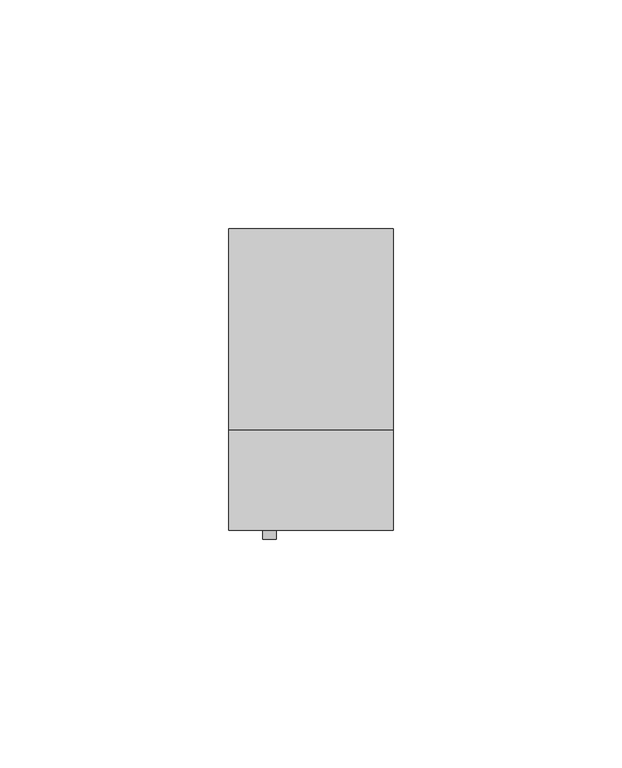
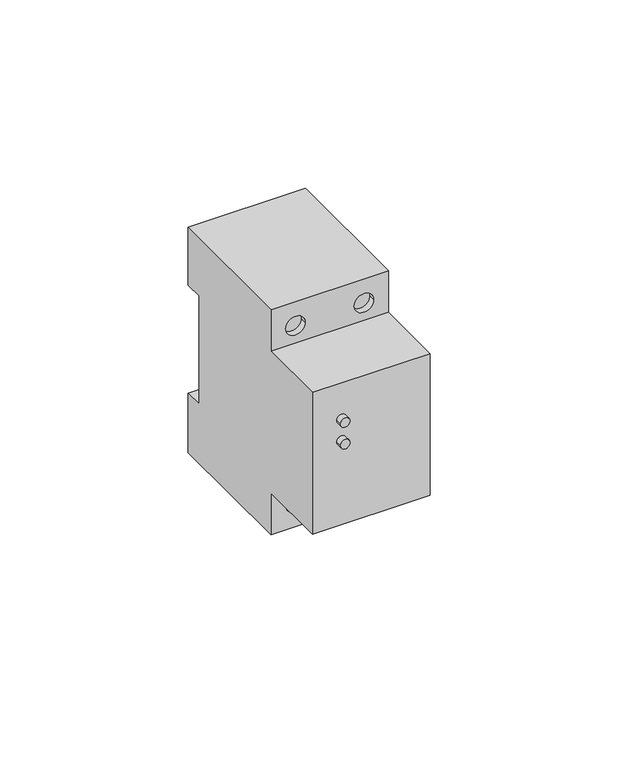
"""IFC4 building model written with IfcOpenShell, lengths in millimetres: proxy geometry, TDM_РЕЛЕ КОНТРОЛЯ НАПРЯЖЕНИЯ СЕРИИ АЗМ : 20А."""

from ifc_helpers import new_model, si_unit, point, frame, frame_2d, origin, place, context, project, spatial, polyline, circle_curve, trimmed, segment, composite_curve, outline, extrude, source, transform, mapped, element, save
from ifc_brep_helpers import plane_surface, revolved_surface, advanced_brep


def electrical_equipment_d9e2468f(model_context):
    return source(origin(), model_context, "Body", "SolidModel", [
        extrude(outline(composite_curve([segment(trimmed(circle_curve(frame_2d((4.2954963, -9.0625)), 1.5), [point((4.2954963, -10.5625))], [point((4.2954963, -7.5625))], False, "CARTESIAN"), True, "CONTINUOUS"), segment(trimmed(circle_curve(frame_2d((4.2954963, -9.0625)), 1.5), [point((4.2954963, -7.5625))], [point((4.2954963, -10.5625))], False, "CARTESIAN"), True, "CONTINUOUS")], self_intersect=False)), frame((0.0, -30.4514709, 0.0), z_axis=(0.0, 1.0, 0.0), x_axis=(0.0, 0.0, 1.0)), (0.0, 0.0, 1.0), 1.9514709),
        extrude(outline(composite_curve([segment(trimmed(circle_curve(frame_2d((11.2954963, -9.0625)), 1.5), [point((11.2954963, -10.5625))], [point((11.2954963, -7.5625))], False, "CARTESIAN"), True, "CONTINUOUS"), segment(trimmed(circle_curve(frame_2d((11.2954963, -9.0625)), 1.5), [point((11.2954963, -7.5625))], [point((11.2954963, -10.5625))], False, "CARTESIAN"), True, "CONTINUOUS")], self_intersect=False)), frame((0.0, -30.4514709, 0.0), z_axis=(0.0, 1.0, 0.0), x_axis=(0.0, 0.0, 1.0)), (0.0, 0.0, 1.0), 1.9514709),
        extrude(outline(polyline([(17.0, 16.6821204), (17.0, -4.0740757), (-17.0, -4.0740757), (-17.0, 16.6821204), (17.0, 16.6821204)])), frame((0.0, 0.0, -35.0), z_axis=(0.0, 0.0, 1.0), x_axis=(1.0, 0.0, 0.0)), (0.0, 0.0, 1.0), 69.8255916),
        advanced_brep(
        [(18.0, 31.7632568, 17.7057143), (18.0, 37.5, 17.7057143), (18.0, 37.5, 36.5), (18.0, -6.5, 36.5), (18.0, -6.5, 23.0), (18.0, -28.5, 23.0), (18.0, -28.5, -23.0), (18.0, -6.5, -23.0), (18.0, -6.5, -36.5), (18.0, 37.5, -36.5), (18.0, 37.5, -17.2942857), (18.0, 31.7632568, -17.2942857), (-18.0, 31.7632568, 17.7057143), (-18.0, 31.7632568, -17.2942857), (-18.0, 37.5, -17.2942857), (-18.0, 37.5, -36.5), (-18.0, -6.5, -36.5), (-18.0, -6.5, -23.0), (-18.0, -28.5, -23.0), (-18.0, -28.5, 23.0), (-18.0, -6.5, 23.0), (-18.0, -6.5, 36.5), (-18.0, 37.5, 36.5), (-18.0, 37.5, 17.7057143), (7.5, 7.7375398, 28.6903679), (13.5, 7.7375398, 28.6903679), (-7.5, 7.7375398, 28.6903679), (-13.5, 7.7375398, 28.6903679), (7.5, 7.7375398, -28.6903679), (13.5, 7.7375398, -28.6903679), (-7.5, 7.7375398, -28.6903679), (-13.5, 7.7375398, -28.6903679), (7.5, -6.5, 28.6903679), (13.5, -6.5, 28.6903679), (-13.5, -6.5, 28.6903679), (-7.5, -6.5, 28.6903679), (13.5, -6.5, -28.6903679), (7.5, -6.5, -28.6903679), (-13.5, -6.5, -28.6903679), (-7.5, -6.5, -28.6903679)],
        [
            (0, 1),
            (1, 2),
            (2, 3),
            (3, 4),
            (4, 5),
            (5, 6),
            (6, 7),
            (7, 8),
            (8, 9),
            (9, 10),
            (10, 11),
            (11, 0),
            (12, 13),
            (13, 14),
            (14, 15),
            (15, 16),
            (16, 17),
            (17, 18),
            (18, 19),
            (19, 20),
            (20, 21),
            (21, 22),
            (22, 23),
            (23, 12),
            (0, 12),
            (23, 1),
            (22, 2),
            (9, 15),
            (14, 10),
            (13, 11),
            (24, 25, circle_curve(frame((10.5, 7.7375398, 28.6903679), z_axis=(0.0, -1.0, 0.0), x_axis=(1.0, 0.0, 0.0)), 3.0)),
            (25, 24, circle_curve(frame((10.5, 7.7375398, 28.6903679), z_axis=(0.0, -1.0, 0.0), x_axis=(1.0, 0.0, 0.0)), 3.0)),
            (26, 27, circle_curve(frame((-10.5, 7.7375398, 28.6903679), z_axis=(0.0, -1.0, 0.0), x_axis=(-1.0, 0.0, 0.0)), 3.0)),
            (27, 26, circle_curve(frame((-10.5, 7.7375398, 28.6903679), z_axis=(0.0, -1.0, 0.0), x_axis=(-1.0, 0.0, 0.0)), 3.0)),
            (28, 29, circle_curve(frame((10.5, 7.7375398, -28.6903679), z_axis=(0.0, -1.0, 0.0), x_axis=(1.0, 0.0, 0.0)), 3.0)),
            (29, 28, circle_curve(frame((10.5, 7.7375398, -28.6903679), z_axis=(0.0, -1.0, 0.0), x_axis=(1.0, 0.0, 0.0)), 3.0)),
            (30, 31, circle_curve(frame((-10.5, 7.7375398, -28.6903679), z_axis=(0.0, -1.0, 0.0), x_axis=(-1.0, 0.0, 0.0)), 3.0)),
            (31, 30, circle_curve(frame((-10.5, 7.7375398, -28.6903679), z_axis=(0.0, -1.0, 0.0), x_axis=(-1.0, 0.0, 0.0)), 3.0)),
            (4, 20),
            (19, 5),
            (18, 6),
            (24, 32),
            (32, 33, circle_curve(frame((10.5, -6.5, 28.6903679), z_axis=(0.0, -1.0, 0.0), x_axis=(1.0, 0.0, 0.0)), 3.0)),
            (33, 25),
            (33, 32, circle_curve(frame((10.5, -6.5, 28.6903679), z_axis=(0.0, -1.0, 0.0), x_axis=(1.0, 0.0, 0.0)), 3.0)),
            (21, 3),
            (34, 35, circle_curve(frame((-10.5, -6.5, 28.6903679), z_axis=(0.0, 1.0, 0.0), x_axis=(-1.0, 0.0, 0.0)), 3.0)),
            (35, 34, circle_curve(frame((-10.5, -6.5, 28.6903679), z_axis=(0.0, 1.0, 0.0), x_axis=(-1.0, 0.0, 0.0)), 3.0)),
            (17, 7),
            (16, 8),
            (36, 37, circle_curve(frame((10.5, -6.5, -28.6903679), z_axis=(0.0, 1.0, 0.0), x_axis=(1.0, 0.0, 0.0)), 3.0)),
            (37, 36, circle_curve(frame((10.5, -6.5, -28.6903679), z_axis=(0.0, 1.0, 0.0), x_axis=(1.0, 0.0, 0.0)), 3.0)),
            (38, 39, circle_curve(frame((-10.5, -6.5, -28.6903679), z_axis=(0.0, 1.0, 0.0), x_axis=(-1.0, 0.0, 0.0)), 3.0)),
            (39, 38, circle_curve(frame((-10.5, -6.5, -28.6903679), z_axis=(0.0, 1.0, 0.0), x_axis=(-1.0, 0.0, 0.0)), 3.0)),
            (26, 35),
            (34, 27),
            (28, 37),
            (36, 29),
            (30, 39),
            (38, 31),
        ],
        [
            plane_surface(frame((18.0, 31.7632568, 17.7057143), z_axis=(1.0, 0.0, 0.0), x_axis=(0.0, 1.0, 0.0))),
            plane_surface(frame((-18.0, 31.7632568, 17.7057143), z_axis=(-1.0, 0.0, 0.0), x_axis=(0.0, -1.0, 0.0))),
            plane_surface(frame((18.0, 31.7632568, 17.7057143), z_axis=(0.0, 0.0, -1.0), x_axis=(-1.0, 0.0, 0.0))),
            plane_surface(frame((18.0, 37.5, 17.7057143), z_axis=(0.0, 1.0, 0.0), x_axis=(-1.0, 0.0, 0.0))),
            plane_surface(frame((18.0, 37.5, -36.5), z_axis=(0.0, 1.0, 0.0), x_axis=(-1.0, 0.0, 0.0))),
            plane_surface(frame((18.0, 37.5, -17.2942857), z_axis=(0.0, 0.0, 1.0), x_axis=(-1.0, 0.0, 0.0))),
            plane_surface(frame((18.0, 31.7632568, -17.2942857), z_axis=(0.0, 1.0, 0.0), x_axis=(-1.0, 0.0, 0.0))),
            plane_surface(frame((13.5, 7.7375398, 28.6903679), z_axis=(0.0, -1.0, 0.0), x_axis=(0.0, 0.0, -1.0))),
            plane_surface(frame((18.0, -6.5, 23.0), z_axis=(0.0, 0.0, 1.0), x_axis=(-1.0, 0.0, 0.0))),
            plane_surface(frame((18.0, -28.5, 23.0), z_axis=(0.0, -1.0, 0.0), x_axis=(-1.0, 0.0, 0.0))),
            revolved_surface(polyline([(13.5, -6.5, 28.6903679), (13.5, 7.7375398, 28.6903679)]), (10.5, 7.7375398, 28.6903679), (0.0, -1.0, 0.0)),
            plane_surface(frame((18.0, 37.5, 36.5), z_axis=(0.0, 0.0, 1.0), x_axis=(-1.0, 0.0, 0.0))),
            plane_surface(frame((18.0, -6.5, 36.5), z_axis=(0.0, -1.0, 0.0), x_axis=(-1.0, 0.0, 0.0))),
            plane_surface(frame((18.0, -28.5, -23.0), z_axis=(0.0, 0.0, -1.0), x_axis=(-1.0, 0.0, 0.0))),
            plane_surface(frame((18.0, -6.5, -23.0), z_axis=(0.0, -1.0, 0.0), x_axis=(-1.0, 0.0, 0.0))),
            plane_surface(frame((18.0, -6.5, -36.5), z_axis=(0.0, 0.0, -1.0), x_axis=(-1.0, 0.0, 0.0))),
            revolved_surface(polyline([(-13.5, -6.5, 28.6903679), (-13.5, 7.7375398, 28.6903679)]), (-10.5, 0.0, 28.6903679), (0.0, -1.0, 0.0)),
            revolved_surface(polyline([(13.5, -6.5, -28.6903679), (13.5, 7.7375398, -28.6903679)]), (10.5, 0.0, -28.6903679), (0.0, -1.0, 0.0)),
            revolved_surface(polyline([(-13.5, -6.5, -28.6903679), (-13.5, 7.7375398, -28.6903679)]), (-10.5, 0.0, -28.6903679), (0.0, -1.0, 0.0)),
        ],
        [
            (0, [[1, 2, 3, 4, 5, 6, 7, 8, 9, 10, 11, 12]]),
            (1, [[13, 14, 15, 16, 17, 18, 19, 20, 21, 22, 23, 24]]),
            (2, [[-1, 25, -24, 26]]),
            (3, [[-2, -26, -23, 27]]),
            (4, [[-10, 28, -15, 29]]),
            (5, [[-11, -29, -14, 30]]),
            (6, [[-12, -30, -13, -25]]),
            (7, [[31, 32]]),
            (7, [[33, 34]]),
            (7, [[35, 36]]),
            (7, [[37, 38]]),
            (8, [[-5, 39, -20, 40]]),
            (9, [[-6, -40, -19, 41]]),
            (10, [[-31, 42, 43, 44]]),
            (10, [[-32, -44, 45, -42]]),
            (11, [[-3, -27, -22, 46]]),
            (12, [[-4, -46, -21, -39], [-43, -45], [47, 48]]),
            (13, [[-7, -41, -18, 49]]),
            (14, [[-8, -49, -17, 50], [51, 52], [53, 54]]),
            (15, [[-9, -50, -16, -28]]),
            (16, [[-33, 55, -47, 56]]),
            (16, [[-34, -56, -48, -55]]),
            (17, [[-35, 57, -51, 58]]),
            (17, [[-36, -58, -52, -57]]),
            (18, [[-37, 59, -53, 60]]),
            (18, [[-38, -60, -54, -59]]),
        ],
    ),
    ])


if __name__ == "__main__":
    model = new_model("IFC4")
    model_context = context("Model", 3, world=origin())
    ifc_project = project(units=[si_unit("LENGTHUNIT", "METRE", prefix="MILLI")], contexts=[model_context])
    site = spatial("IfcSite", under=ifc_project)
    building = spatial("IfcBuilding", under=site)
    placement = place(None, origin())
    electrical_equipment_shape = electrical_equipment_d9e2468f(model_context)
    element("IfcBuildingElementProxy", 1, Name="TDM_РЕЛЕ КОНТРОЛЯ НАПРЯЖЕНИЯ СЕРИИ АЗМ : 20А", ObjectType="TDM_РЕЛЕ КОНТРОЛЯ НАПРЯЖЕНИЯ СЕРИИ АЗМ : 20А", at=placement, inside=building, context=model_context, shape_type="MappedRepresentation", body=[
        mapped(electrical_equipment_shape, transform((0.0, 0.0, 0.0), x_axis=(1.0, 0.0, 0.0), y_axis=(0.0, 1.0, 0.0), z_axis=(0.0, 0.0, 1.0))),
    ])
    save(model, "model.ifc")
